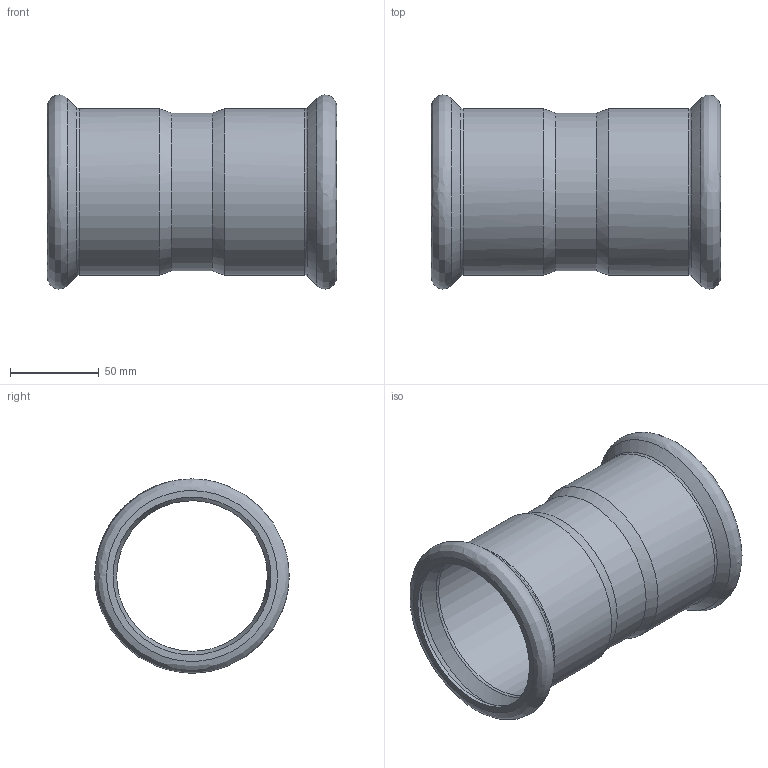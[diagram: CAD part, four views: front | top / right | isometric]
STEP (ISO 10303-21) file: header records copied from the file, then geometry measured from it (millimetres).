
FILE_DESCRIPTION(('FreeCAD Model'),'2;1');
FILE_NAME('Open CASCADE Shape Model','2025-10-20T15:02:40',('Author'),( ''),'Open CASCADE STEP processor 7.8','FreeCAD','Unknown');
FILE_SCHEMA(('AUTOMOTIVE_DESIGN { 1 0 10303 214 1 1 1 1 }'));
Length unit declared in the file: millimetre
Products named in the file (1): Solido1
Bounding box: 163 x 109.37 x 109.39 mm (x, y, z)
Volume: 106121.4 mm3; surface area: 107662.8 mm2
Topology: 1 solids, 1 shells, 28 faces, 96 edges, 72 vertices
Faces by surface type: bspline 28
Entity records: 1526 total; most frequent: CARTESIAN_POINT 1025, ORIENTED_EDGE 192, EDGE_CURVE 96, VERTEX_POINT 72, FACE_BOUND 32, EDGE_LOOP 32, ADVANCED_FACE 28, B_SPLINE_CURVE_WITH_KNOTS 16
